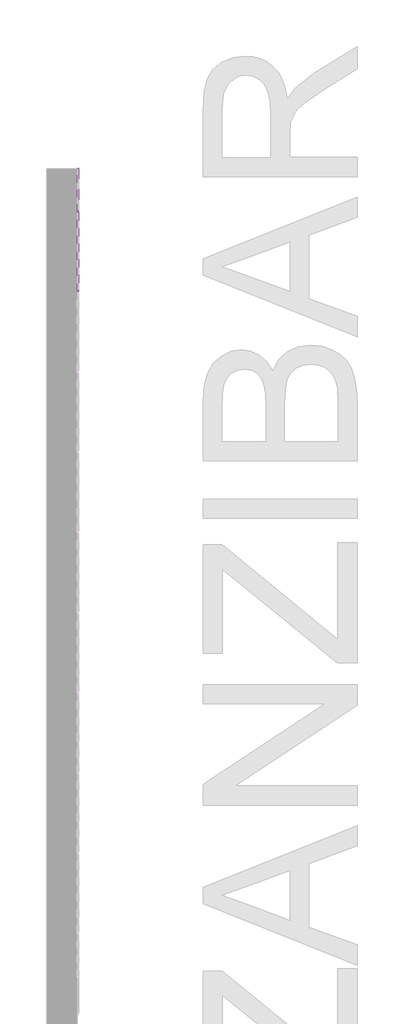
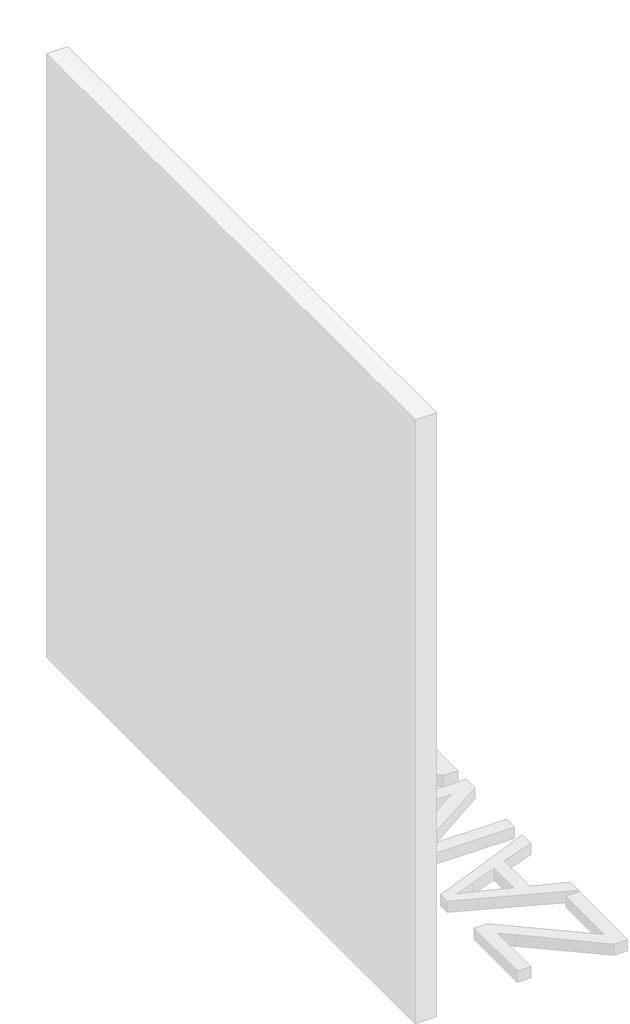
# One storey, part 45 of 45: 37 proxies.
"""IFC4 building model written with IfcOpenShell, lengths in millimetres."""

from ifc_helpers import new_model, si_unit, origin, place, context, project, spatial, transform, mapped, element, save
from components import generic_models_ab0f2c30, generic_models_1527efce

model = new_model("IFC4")

# Units and contexts
model_context = context("Model", 3, world=origin())
ifc_project = project(units=[si_unit("LENGTHUNIT", "METRE", prefix="MILLI")], contexts=[model_context])

# Site, building, storey
site = spatial("IfcSite", under=ifc_project)
building = spatial("IfcBuilding", under=site)
storey = spatial("IfcBuildingStorey", under=building, Name="PORTOBELLO - SHOWROOM", Elevation=0.0)

# Proxies
placement = place(None, origin())
generic_models_shape = generic_models_ab0f2c30(model_context)
element("IfcBuildingElementProxy", 1, Name="PBSHOP - HORIZONTES ZANZIBAR 6,5X23 : ZANZIBAR", ObjectType="PBSHOP - HORIZONTES ZANZIBAR 6,5X23 : ZANZIBAR", at=placement, inside=storey, context=model_context, shape_type="MappedRepresentation", body=[
    mapped(generic_models_shape, transform((69111.8826867, 22220.0864672, 1483.5), x_axis=(0.0, 0.0, 1.0), y_axis=(0.0, -1.0, 0.0), z_axis=(1.0, 0.0, 0.0))),
])
element("IfcBuildingElementProxy", 2, Name="PBSHOP - HORIZONTES ZANZIBAR 6,5X23 : ZANZIBAR", ObjectType="PBSHOP - HORIZONTES ZANZIBAR 6,5X23 : ZANZIBAR", at=placement, inside=storey, context=model_context, shape_type="MappedRepresentation", body=[
    mapped(generic_models_shape, transform((69111.8826867, 22220.0864672, 1552.5), x_axis=(0.0, 0.0, 1.0), y_axis=(0.0, -1.0, 0.0), z_axis=(1.0, 0.0, 0.0))),
])
element("IfcBuildingElementProxy", 3, Name="PBSHOP - HORIZONTES ZANZIBAR 6,5X23 : ZANZIBAR", ObjectType="PBSHOP - HORIZONTES ZANZIBAR 6,5X23 : ZANZIBAR", at=placement, inside=storey, context=model_context, shape_type="MappedRepresentation", body=[
    mapped(generic_models_shape, transform((69111.8826867, 22220.0864672, 1621.5), x_axis=(0.0, 0.0, 1.0), y_axis=(0.0, -1.0, 0.0), z_axis=(1.0, 0.0, 0.0))),
])
element("IfcBuildingElementProxy", 4, Name="PBSHOP - HORIZONTES ZANZIBAR 6,5X23 : ZANZIBAR", ObjectType="PBSHOP - HORIZONTES ZANZIBAR 6,5X23 : ZANZIBAR", at=placement, inside=storey, context=model_context, shape_type="MappedRepresentation", body=[
    mapped(generic_models_shape, transform((69111.8826867, 22220.0864672, 1690.5), x_axis=(0.0, 0.0, 1.0), y_axis=(0.0, -1.0, 0.0), z_axis=(1.0, 0.0, 0.0))),
])
element("IfcBuildingElementProxy", 5, Name="PBSHOP - HORIZONTES ZANZIBAR 6,5X23 : ZANZIBAR", ObjectType="PBSHOP - HORIZONTES ZANZIBAR 6,5X23 : ZANZIBAR", at=placement, inside=storey, context=model_context, shape_type="MappedRepresentation", body=[
    mapped(generic_models_shape, transform((69111.8826867, 22220.0864672, 1759.5), x_axis=(0.0, 0.0, 1.0), y_axis=(0.0, -1.0, 0.0), z_axis=(1.0, 0.0, 0.0))),
])
element("IfcBuildingElementProxy", 6, Name="PBSHOP - HORIZONTES ZANZIBAR 6,5X23 : ZANZIBAR", ObjectType="PBSHOP - HORIZONTES ZANZIBAR 6,5X23 : ZANZIBAR", at=placement, inside=storey, context=model_context, shape_type="MappedRepresentation", body=[
    mapped(generic_models_shape, transform((69111.8826867, 22220.0864672, 1828.5), x_axis=(0.0, 0.0, 1.0), y_axis=(0.0, -1.0, 0.0), z_axis=(1.0, 0.0, 0.0))),
])
element("IfcBuildingElementProxy", 7, Name="PBSHOP - HORIZONTES ZANZIBAR 6,5X23 : ZANZIBAR", ObjectType="PBSHOP - HORIZONTES ZANZIBAR 6,5X23 : ZANZIBAR", at=placement, inside=storey, context=model_context, shape_type="MappedRepresentation", body=[
    mapped(generic_models_shape, transform((69111.8826867, 22220.0864672, 1897.5), x_axis=(0.0, 0.0, 1.0), y_axis=(0.0, -1.0, 0.0), z_axis=(1.0, 0.0, 0.0))),
])
element("IfcBuildingElementProxy", 8, Name="PBSHOP - HORIZONTES ZANZIBAR 6,5X23 : ZANZIBAR", ObjectType="PBSHOP - HORIZONTES ZANZIBAR 6,5X23 : ZANZIBAR", at=placement, inside=storey, context=model_context, shape_type="MappedRepresentation", body=[
    mapped(generic_models_shape, transform((69111.8826867, 22220.0864672, 1966.5), x_axis=(0.0, 0.0, 1.0), y_axis=(0.0, -1.0, 0.0), z_axis=(1.0, 0.0, 0.0))),
])
element("IfcBuildingElementProxy", 9, Name="PBSHOP - HORIZONTES ZANZIBAR 6,5X23 : ZANZIBAR", ObjectType="PBSHOP - HORIZONTES ZANZIBAR 6,5X23 : ZANZIBAR", at=placement, inside=storey, context=model_context, shape_type="MappedRepresentation", body=[
    mapped(generic_models_shape, transform((69111.8826867, 22220.0864672, 2035.5), x_axis=(0.0, 0.0, 1.0), y_axis=(0.0, -1.0, 0.0), z_axis=(1.0, 0.0, 0.0))),
])
element("IfcBuildingElementProxy", 10, Name="PBSHOP - HORIZONTES ZANZIBAR 6,5X23 : ZANZIBAR", ObjectType="PBSHOP - HORIZONTES ZANZIBAR 6,5X23 : ZANZIBAR", at=placement, inside=storey, context=model_context, shape_type="MappedRepresentation", body=[
    mapped(generic_models_shape, transform((69111.8826867, 22220.0864672, 2104.5), x_axis=(0.0, 0.0, 1.0), y_axis=(0.0, -1.0, 0.0), z_axis=(1.0, 0.0, 0.0))),
])
element("IfcBuildingElementProxy", 11, Name="PBSHOP - HORIZONTES ZANZIBAR 6,5X23 : ZANZIBAR", ObjectType="PBSHOP - HORIZONTES ZANZIBAR 6,5X23 : ZANZIBAR", at=placement, inside=storey, context=model_context, shape_type="MappedRepresentation", body=[
    mapped(generic_models_shape, transform((69111.8826867, 22220.0864672, 2173.5), x_axis=(0.0, 0.0, 1.0), y_axis=(0.0, -1.0, 0.0), z_axis=(1.0, 0.0, 0.0))),
])
element("IfcBuildingElementProxy", 12, Name="PBSHOP - HORIZONTES ZANZIBAR 6,5X23 : ZANZIBAR", ObjectType="PBSHOP - HORIZONTES ZANZIBAR 6,5X23 : ZANZIBAR", at=placement, inside=storey, context=model_context, shape_type="MappedRepresentation", body=[
    mapped(generic_models_shape, transform((69111.8826867, 22220.0864672, 2242.5), x_axis=(0.0, 0.0, 1.0), y_axis=(0.0, -1.0, 0.0), z_axis=(1.0, 0.0, 0.0))),
])
element("IfcBuildingElementProxy", 13, Name="PBSHOP - HORIZONTES ZANZIBAR 6,5X23 : ZANZIBAR", ObjectType="PBSHOP - HORIZONTES ZANZIBAR 6,5X23 : ZANZIBAR", at=placement, inside=storey, context=model_context, shape_type="MappedRepresentation", body=[
    mapped(generic_models_shape, transform((69111.8826867, 22220.0864672, 2311.5), x_axis=(0.0, 0.0, 1.0), y_axis=(0.0, -1.0, 0.0), z_axis=(1.0, 0.0, 0.0))),
])
element("IfcBuildingElementProxy", 14, Name="PBSHOP - HORIZONTES ZANZIBAR 6,5X23 : ZANZIBAR", ObjectType="PBSHOP - HORIZONTES ZANZIBAR 6,5X23 : ZANZIBAR", at=placement, inside=storey, context=model_context, shape_type="MappedRepresentation", body=[
    mapped(generic_models_shape, transform((69111.8826867, 22220.0864672, 2380.5), x_axis=(0.0, 0.0, 1.0), y_axis=(0.0, -1.0, 0.0), z_axis=(1.0, 0.0, 0.0))),
])
element("IfcBuildingElementProxy", 15, Name="PBSHOP - HORIZONTES ZANZIBAR 6,5X23 : ZANZIBAR", ObjectType="PBSHOP - HORIZONTES ZANZIBAR 6,5X23 : ZANZIBAR", at=placement, inside=storey, context=model_context, shape_type="MappedRepresentation", body=[
    mapped(generic_models_shape, transform((69111.8826867, 22220.0864672, 2449.5), x_axis=(0.0, 0.0, 1.0), y_axis=(0.0, -1.0, 0.0), z_axis=(1.0, 0.0, 0.0))),
])
element("IfcBuildingElementProxy", 16, Name="PBSHOP - HORIZONTES ZANZIBAR 6,5X23 : ZANZIBAR", ObjectType="PBSHOP - HORIZONTES ZANZIBAR 6,5X23 : ZANZIBAR", at=placement, inside=storey, context=model_context, shape_type="MappedRepresentation", body=[
    mapped(generic_models_shape, transform((69111.8826867, 22220.0864672, 2518.5), x_axis=(0.0, 0.0, 1.0), y_axis=(0.0, -1.0, 0.0), z_axis=(1.0, 0.0, 0.0))),
])
element("IfcBuildingElementProxy", 17, Name="PBSHOP - HORIZONTES ZANZIBAR 6,5X23 : ZANZIBAR", ObjectType="PBSHOP - HORIZONTES ZANZIBAR 6,5X23 : ZANZIBAR", at=placement, inside=storey, context=model_context, shape_type="MappedRepresentation", body=[
    mapped(generic_models_shape, transform((69111.8826867, 22220.0864672, 2587.5), x_axis=(0.0, 0.0, 1.0), y_axis=(0.0, -1.0, 0.0), z_axis=(1.0, 0.0, 0.0))),
])
element("IfcBuildingElementProxy", 18, Name="PBSHOP - HORIZONTES ZANZIBAR 6,5X23 : ZANZIBAR", ObjectType="PBSHOP - HORIZONTES ZANZIBAR 6,5X23 : ZANZIBAR", at=placement, inside=storey, context=model_context, shape_type="MappedRepresentation", body=[
    mapped(generic_models_shape, transform((69111.8826867, 22220.0864672, 2656.5), x_axis=(0.0, 0.0, 1.0), y_axis=(0.0, -1.0, 0.0), z_axis=(1.0, 0.0, 0.0))),
])
generic_models_2_shape = generic_models_1527efce(model_context)
element("IfcBuildingElementProxy", 19, Name="PBSHOP - HORIZONTES ZANZIBAR 6,5X23 : ZANZIBAR", ObjectType="PBSHOP - HORIZONTES ZANZIBAR 6,5X23 : ZANZIBAR", at=placement, inside=storey, context=model_context, shape_type="MappedRepresentation", body=[
    mapped(generic_models_2_shape, transform((69111.8826867, 22454.0864672, 1414.5), x_axis=(0.0, 0.0, 1.0), y_axis=(0.0, -1.0, 0.0), z_axis=(1.0, 0.0, 0.0))),
])
element("IfcBuildingElementProxy", 20, Name="PBSHOP - HORIZONTES ZANZIBAR 6,5X23 : ZANZIBAR", ObjectType="PBSHOP - HORIZONTES ZANZIBAR 6,5X23 : ZANZIBAR", at=placement, inside=storey, context=model_context, shape_type="MappedRepresentation", body=[
    mapped(generic_models_2_shape, transform((69111.8826867, 22454.0864672, 1483.5), x_axis=(0.0, 0.0, 1.0), y_axis=(0.0, -1.0, 0.0), z_axis=(1.0, 0.0, 0.0))),
])
element("IfcBuildingElementProxy", 21, Name="PBSHOP - HORIZONTES ZANZIBAR 6,5X23 : ZANZIBAR", ObjectType="PBSHOP - HORIZONTES ZANZIBAR 6,5X23 : ZANZIBAR", at=placement, inside=storey, context=model_context, shape_type="MappedRepresentation", body=[
    mapped(generic_models_2_shape, transform((69111.8826867, 22454.0864672, 1552.5), x_axis=(0.0, 0.0, 1.0), y_axis=(0.0, -1.0, 0.0), z_axis=(1.0, 0.0, 0.0))),
])
element("IfcBuildingElementProxy", 22, Name="PBSHOP - HORIZONTES ZANZIBAR 6,5X23 : ZANZIBAR", ObjectType="PBSHOP - HORIZONTES ZANZIBAR 6,5X23 : ZANZIBAR", at=placement, inside=storey, context=model_context, shape_type="MappedRepresentation", body=[
    mapped(generic_models_2_shape, transform((69111.8826867, 22454.0864672, 1621.5), x_axis=(0.0, 0.0, 1.0), y_axis=(0.0, -1.0, 0.0), z_axis=(1.0, 0.0, 0.0))),
])
element("IfcBuildingElementProxy", 23, Name="PBSHOP - HORIZONTES ZANZIBAR 6,5X23 : ZANZIBAR", ObjectType="PBSHOP - HORIZONTES ZANZIBAR 6,5X23 : ZANZIBAR", at=placement, inside=storey, context=model_context, shape_type="MappedRepresentation", body=[
    mapped(generic_models_2_shape, transform((69111.8826867, 22454.0864672, 1690.5), x_axis=(0.0, 0.0, 1.0), y_axis=(0.0, -1.0, 0.0), z_axis=(1.0, 0.0, 0.0))),
])
element("IfcBuildingElementProxy", 24, Name="PBSHOP - HORIZONTES ZANZIBAR 6,5X23 : ZANZIBAR", ObjectType="PBSHOP - HORIZONTES ZANZIBAR 6,5X23 : ZANZIBAR", at=placement, inside=storey, context=model_context, shape_type="MappedRepresentation", body=[
    mapped(generic_models_2_shape, transform((69111.8826867, 22454.0864672, 1759.5), x_axis=(0.0, 0.0, 1.0), y_axis=(0.0, -1.0, 0.0), z_axis=(1.0, 0.0, 0.0))),
])
element("IfcBuildingElementProxy", 25, Name="PBSHOP - HORIZONTES ZANZIBAR 6,5X23 : ZANZIBAR", ObjectType="PBSHOP - HORIZONTES ZANZIBAR 6,5X23 : ZANZIBAR", at=placement, inside=storey, context=model_context, shape_type="MappedRepresentation", body=[
    mapped(generic_models_2_shape, transform((69111.8826867, 22454.0864672, 1828.5), x_axis=(0.0, 0.0, 1.0), y_axis=(0.0, -1.0, 0.0), z_axis=(1.0, 0.0, 0.0))),
])
element("IfcBuildingElementProxy", 26, Name="PBSHOP - HORIZONTES ZANZIBAR 6,5X23 : ZANZIBAR", ObjectType="PBSHOP - HORIZONTES ZANZIBAR 6,5X23 : ZANZIBAR", at=placement, inside=storey, context=model_context, shape_type="MappedRepresentation", body=[
    mapped(generic_models_2_shape, transform((69111.8826867, 22454.0864672, 1897.5), x_axis=(0.0, 0.0, 1.0), y_axis=(0.0, -1.0, 0.0), z_axis=(1.0, 0.0, 0.0))),
])
element("IfcBuildingElementProxy", 27, Name="PBSHOP - HORIZONTES ZANZIBAR 6,5X23 : ZANZIBAR", ObjectType="PBSHOP - HORIZONTES ZANZIBAR 6,5X23 : ZANZIBAR", at=placement, inside=storey, context=model_context, shape_type="MappedRepresentation", body=[
    mapped(generic_models_2_shape, transform((69111.8826867, 22454.0864672, 1966.5), x_axis=(0.0, 0.0, 1.0), y_axis=(0.0, -1.0, 0.0), z_axis=(1.0, 0.0, 0.0))),
])
element("IfcBuildingElementProxy", 28, Name="PBSHOP - HORIZONTES ZANZIBAR 6,5X23 : ZANZIBAR", ObjectType="PBSHOP - HORIZONTES ZANZIBAR 6,5X23 : ZANZIBAR", at=placement, inside=storey, context=model_context, shape_type="MappedRepresentation", body=[
    mapped(generic_models_2_shape, transform((69111.8826867, 22454.0864672, 2035.5), x_axis=(0.0, 0.0, 1.0), y_axis=(0.0, -1.0, 0.0), z_axis=(1.0, 0.0, 0.0))),
])
element("IfcBuildingElementProxy", 29, Name="PBSHOP - HORIZONTES ZANZIBAR 6,5X23 : ZANZIBAR", ObjectType="PBSHOP - HORIZONTES ZANZIBAR 6,5X23 : ZANZIBAR", at=placement, inside=storey, context=model_context, shape_type="MappedRepresentation", body=[
    mapped(generic_models_2_shape, transform((69111.8826867, 22454.0864672, 2104.5), x_axis=(0.0, 0.0, 1.0), y_axis=(0.0, -1.0, 0.0), z_axis=(1.0, 0.0, 0.0))),
])
element("IfcBuildingElementProxy", 30, Name="PBSHOP - HORIZONTES ZANZIBAR 6,5X23 : ZANZIBAR", ObjectType="PBSHOP - HORIZONTES ZANZIBAR 6,5X23 : ZANZIBAR", at=placement, inside=storey, context=model_context, shape_type="MappedRepresentation", body=[
    mapped(generic_models_2_shape, transform((69111.8826867, 22454.0864672, 2173.5), x_axis=(0.0, 0.0, 1.0), y_axis=(0.0, -1.0, 0.0), z_axis=(1.0, 0.0, 0.0))),
])
element("IfcBuildingElementProxy", 31, Name="PBSHOP - HORIZONTES ZANZIBAR 6,5X23 : ZANZIBAR", ObjectType="PBSHOP - HORIZONTES ZANZIBAR 6,5X23 : ZANZIBAR", at=placement, inside=storey, context=model_context, shape_type="MappedRepresentation", body=[
    mapped(generic_models_2_shape, transform((69111.8826867, 22454.0864672, 2242.5), x_axis=(0.0, 0.0, 1.0), y_axis=(0.0, -1.0, 0.0), z_axis=(1.0, 0.0, 0.0))),
])
element("IfcBuildingElementProxy", 32, Name="PBSHOP - HORIZONTES ZANZIBAR 6,5X23 : ZANZIBAR", ObjectType="PBSHOP - HORIZONTES ZANZIBAR 6,5X23 : ZANZIBAR", at=placement, inside=storey, context=model_context, shape_type="MappedRepresentation", body=[
    mapped(generic_models_2_shape, transform((69111.8826867, 22454.0864672, 2311.5), x_axis=(0.0, 0.0, 1.0), y_axis=(0.0, -1.0, 0.0), z_axis=(1.0, 0.0, 0.0))),
])
element("IfcBuildingElementProxy", 33, Name="PBSHOP - HORIZONTES ZANZIBAR 6,5X23 : ZANZIBAR", ObjectType="PBSHOP - HORIZONTES ZANZIBAR 6,5X23 : ZANZIBAR", at=placement, inside=storey, context=model_context, shape_type="MappedRepresentation", body=[
    mapped(generic_models_2_shape, transform((69111.8826867, 22454.0864672, 2380.5), x_axis=(0.0, 0.0, 1.0), y_axis=(0.0, -1.0, 0.0), z_axis=(1.0, 0.0, 0.0))),
])
element("IfcBuildingElementProxy", 34, Name="PBSHOP - HORIZONTES ZANZIBAR 6,5X23 : ZANZIBAR", ObjectType="PBSHOP - HORIZONTES ZANZIBAR 6,5X23 : ZANZIBAR", at=placement, inside=storey, context=model_context, shape_type="MappedRepresentation", body=[
    mapped(generic_models_2_shape, transform((69111.8826867, 22454.0864672, 2449.5), x_axis=(0.0, 0.0, 1.0), y_axis=(0.0, -1.0, 0.0), z_axis=(1.0, 0.0, 0.0))),
])
element("IfcBuildingElementProxy", 35, Name="PBSHOP - HORIZONTES ZANZIBAR 6,5X23 : ZANZIBAR", ObjectType="PBSHOP - HORIZONTES ZANZIBAR 6,5X23 : ZANZIBAR", at=placement, inside=storey, context=model_context, shape_type="MappedRepresentation", body=[
    mapped(generic_models_2_shape, transform((69111.8826867, 22454.0864672, 2518.5), x_axis=(0.0, 0.0, 1.0), y_axis=(0.0, -1.0, 0.0), z_axis=(1.0, 0.0, 0.0))),
])
element("IfcBuildingElementProxy", 36, Name="PBSHOP - HORIZONTES ZANZIBAR 6,5X23 : ZANZIBAR", ObjectType="PBSHOP - HORIZONTES ZANZIBAR 6,5X23 : ZANZIBAR", at=placement, inside=storey, context=model_context, shape_type="MappedRepresentation", body=[
    mapped(generic_models_2_shape, transform((69111.8826867, 22454.0864672, 2587.5), x_axis=(0.0, 0.0, 1.0), y_axis=(0.0, -1.0, 0.0), z_axis=(1.0, 0.0, 0.0))),
])
element("IfcBuildingElementProxy", 37, Name="PBSHOP - HORIZONTES ZANZIBAR 6,5X23 : ZANZIBAR", ObjectType="PBSHOP - HORIZONTES ZANZIBAR 6,5X23 : ZANZIBAR", at=placement, inside=storey, context=model_context, shape_type="MappedRepresentation", body=[
    mapped(generic_models_2_shape, transform((69111.8826867, 22454.0864672, 2656.5), x_axis=(0.0, 0.0, 1.0), y_axis=(0.0, -1.0, 0.0), z_axis=(1.0, 0.0, 0.0))),
])

save(model, "model.ifc")
